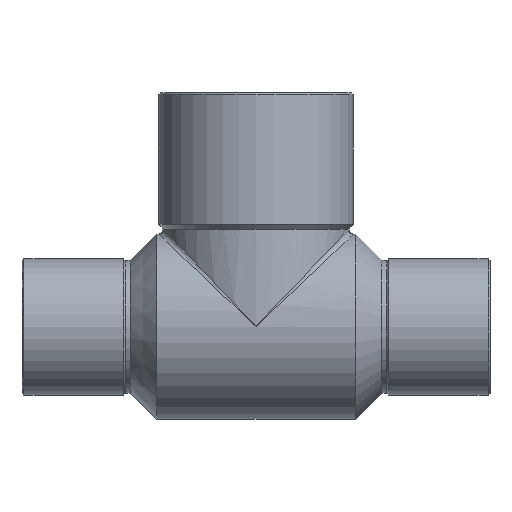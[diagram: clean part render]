
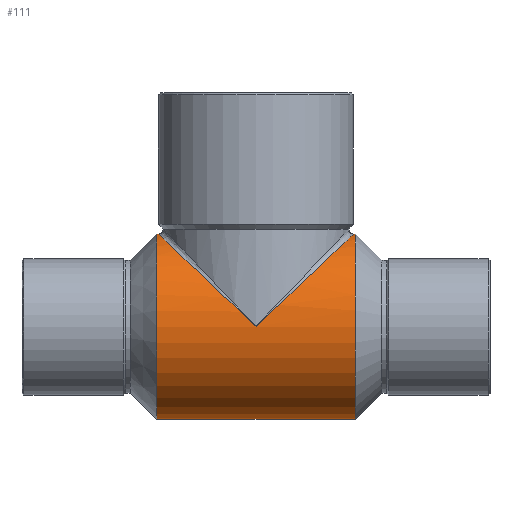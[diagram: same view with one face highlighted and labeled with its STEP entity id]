
A CAD part, top view. The second image highlights one B-rep face of the part: STEP entity #111.
In plain terms, the highlighted cylindrical face has radius 9.5 mm (diameter 19 mm), a partial arc.
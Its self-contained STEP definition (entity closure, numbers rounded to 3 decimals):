
#44=CARTESIAN_POINT('',(0.0,0.,0.0));
#45=DIRECTION('',(1.0,0.,0.0));
#46=DIRECTION('',(0.0,1.0,0.0));
#47=AXIS2_PLACEMENT_3D('',#44,#45,#46);
#48=CYLINDRICAL_SURFACE('',#47,9.5);
#49=CARTESIAN_POINT('',(-10.19,9.5,0.0));
#50=VERTEX_POINT('',#49);
#51=CARTESIAN_POINT('',(-10.,9.5,0.));
#52=VERTEX_POINT('',#51);
#53=CARTESIAN_POINT('',(-10.19,9.5,0.0));
#54=DIRECTION('',(1.0,0.0,0.0));
#55=VECTOR('',#54,0.19);
#56=LINE('',#53,#55);
#57=EDGE_CURVE('',#50,#52,#56,.T.);
#58=ORIENTED_EDGE('',*,*,#57,.F.);
#59=CARTESIAN_POINT('',(-10.19,-9.5,0.));
#60=VERTEX_POINT('',#59);
#61=CARTESIAN_POINT('',(-10.19,0.,0.0));
#62=DIRECTION('',(1.0,0.0,0.0));
#63=DIRECTION('',(0.0,1.0,0.0));
#64=AXIS2_PLACEMENT_3D('',#61,#62,#63);
#65=CIRCLE('',#64,9.5);
#66=EDGE_CURVE('',#50,#60,#65,.T.);
#67=ORIENTED_EDGE('',*,*,#66,.T.);
#68=CARTESIAN_POINT('',(10.19,-9.5,0.));
#69=VERTEX_POINT('',#68);
#70=CARTESIAN_POINT('',(10.19,-9.5,0.));
#71=DIRECTION('',(-1.0,0.0,0.0));
#72=VECTOR('',#71,20.38);
#73=LINE('',#70,#72);
#74=EDGE_CURVE('',#69,#60,#73,.T.);
#75=ORIENTED_EDGE('',*,*,#74,.F.);
#76=CARTESIAN_POINT('',(10.19,9.5,0.0));
#77=VERTEX_POINT('',#76);
#78=CARTESIAN_POINT('',(10.19,0.,0.0));
#79=DIRECTION('',(-1.0,0.0,0.0));
#80=DIRECTION('',(0.0,1.0,0.0));
#81=AXIS2_PLACEMENT_3D('',#78,#79,#80);
#82=CIRCLE('',#81,9.5);
#83=EDGE_CURVE('',#69,#77,#82,.T.);
#84=ORIENTED_EDGE('',*,*,#83,.T.);
#85=CARTESIAN_POINT('',(10.,9.5,0.));
#86=VERTEX_POINT('',#85);
#87=CARTESIAN_POINT('',(10.,9.5,0.));
#88=DIRECTION('',(1.0,0.0,0.0));
#89=VECTOR('',#88,0.19);
#90=LINE('',#87,#89);
#91=EDGE_CURVE('',#86,#77,#90,.T.);
#92=ORIENTED_EDGE('',*,*,#91,.F.);
#93=CARTESIAN_POINT('',(0.,0.,9.5));
#94=VERTEX_POINT('',#93);
#95=CARTESIAN_POINT('',(0.,0.,0.0));
#96=DIRECTION('',(-0.689,0.725,0.));
#97=DIRECTION('',(0.725,0.689,0.0));
#98=AXIS2_PLACEMENT_3D('',#95,#96,#97);
#99=ELLIPSE('',#98,13.793,9.5);
#100=EDGE_CURVE('',#94,#86,#99,.T.);
#101=ORIENTED_EDGE('',*,*,#100,.F.);
#102=CARTESIAN_POINT('',(0.0,0.,0.0));
#103=DIRECTION('',(0.689,0.725,0.));
#104=DIRECTION('',(-0.725,0.689,0.0));
#105=AXIS2_PLACEMENT_3D('',#102,#103,#104);
#106=ELLIPSE('',#105,13.793,9.5);
#107=EDGE_CURVE('',#52,#94,#106,.T.);
#108=ORIENTED_EDGE('',*,*,#107,.F.);
#109=EDGE_LOOP('',(#58,#67,#75,#84,#92,#101,#108));
#110=FACE_OUTER_BOUND('',#109,.T.);
#111=ADVANCED_FACE('',(#110),#48,.T.);
